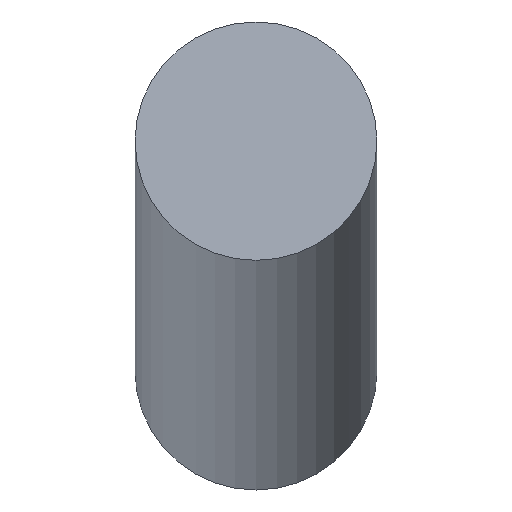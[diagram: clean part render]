
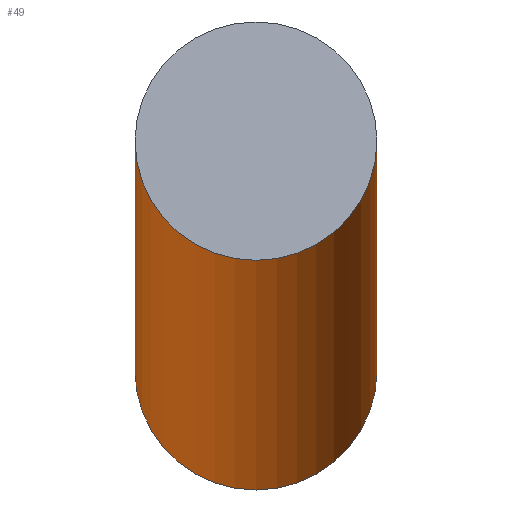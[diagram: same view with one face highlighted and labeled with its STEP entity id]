
A CAD part, front view. The second image highlights one B-rep face of the part: STEP entity #49.
In plain terms, the highlighted cylindrical face has radius 7.5 mm (diameter 15 mm), a full revolution.
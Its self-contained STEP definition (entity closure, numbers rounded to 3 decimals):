
#22=CARTESIAN_POINT('',(-493.5,-1.553,141.803));
#23=DIRECTION('',(0.0,-0.985,0.174));
#24=DIRECTION('',(1.0,0.0,0.0));
#25=AXIS2_PLACEMENT_3D('',#22,#23,#24);
#26=CYLINDRICAL_SURFACE('',#25,7.5);
#27=CARTESIAN_POINT('',(-486.0,-1.553,141.803));
#28=VERTEX_POINT('',#27);
#29=CARTESIAN_POINT('',(-493.5,-1.553,141.803));
#30=DIRECTION('',(0.0,-0.985,0.174));
#31=DIRECTION('',(1.0,0.0,0.0));
#32=AXIS2_PLACEMENT_3D('',#29,#30,#31);
#33=CIRCLE('',#32,7.5);
#34=EDGE_CURVE('',#28,#28,#33,.T.);
#35=ORIENTED_EDGE('',*,*,#34,.T.);
#36=EDGE_LOOP('',(#35));
#37=FACE_BOUND('',#36,.T.);
#38=CARTESIAN_POINT('',(-486.0,-82.307,156.042));
#39=VERTEX_POINT('',#38);
#40=CARTESIAN_POINT('',(-493.5,-82.307,156.042));
#41=DIRECTION('',(0.0,-0.985,0.174));
#42=DIRECTION('',(1.0,0.0,0.0));
#43=AXIS2_PLACEMENT_3D('',#40,#41,#42);
#44=CIRCLE('',#43,7.5);
#45=EDGE_CURVE('',#39,#39,#44,.T.);
#46=ORIENTED_EDGE('',*,*,#45,.F.);
#47=EDGE_LOOP('',(#46));
#48=FACE_BOUND('',#47,.T.);
#49=ADVANCED_FACE('',(#37,#48),#26,.T.);
